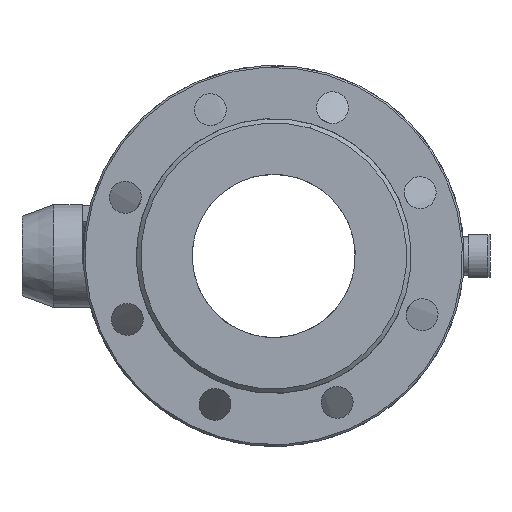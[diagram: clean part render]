
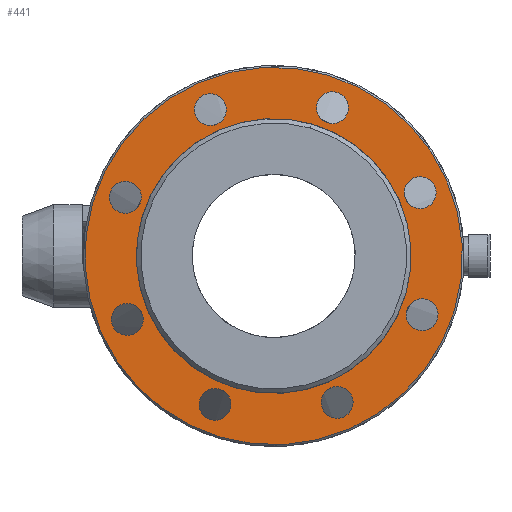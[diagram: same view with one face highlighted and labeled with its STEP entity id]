
A CAD part, left-side view. The second image highlights one B-rep face of the part: STEP entity #441.
In plain terms, the highlighted planar face has unit normal (-1, 0, 0).
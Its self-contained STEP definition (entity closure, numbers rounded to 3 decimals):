
#441=ADVANCED_FACE('',(#2060,#2062,#2064,#2066,#2068,#2070,#2072,#2074,#2076,#2078),
#2080,.T.);
#2060=FACE_BOUND('',#2061,.T.);
#2061=EDGE_LOOP('',(#3440,#3441));
#2062=FACE_BOUND('',#2063,.T.);
#2063=EDGE_LOOP('',(#3442,#3443));
#2064=FACE_BOUND('',#2065,.T.);
#2065=EDGE_LOOP('',(#3444,#3445));
#2066=FACE_BOUND('',#2067,.T.);
#2067=EDGE_LOOP('',(#3446,#3447));
#2068=FACE_BOUND('',#2069,.T.);
#2069=EDGE_LOOP('',(#3448,#3449));
#2070=FACE_BOUND('',#2071,.T.);
#2071=EDGE_LOOP('',(#3450,#3451));
#2072=FACE_BOUND('',#2073,.T.);
#2073=EDGE_LOOP('',(#3452,#3453));
#2074=FACE_BOUND('',#2075,.T.);
#2075=EDGE_LOOP('',(#3454,#3455));
#2076=FACE_BOUND('',#2077,.T.);
#2077=EDGE_LOOP('',(#3456,#3457));
#2078=FACE_OUTER_BOUND('',#2079,.T.);
#2079=EDGE_LOOP('',(#3458,#3459));
#2080=PLANE('',#2081);
#2081=AXIS2_PLACEMENT_3D('',#2082,#2083,#2084);
#2082=CARTESIAN_POINT('',(-105.548,91.07,-41.585));
#2083=DIRECTION('',(-1.,0.,0.));
#2084=DIRECTION('',(0.,0.397,0.918));
#3440=ORIENTED_EDGE('',*,*,#4205,.F.);
#3441=ORIENTED_EDGE('',*,*,#4199,.F.);
#3442=ORIENTED_EDGE('',*,*,#4206,.F.);
#3443=ORIENTED_EDGE('',*,*,#4195,.F.);
#3444=ORIENTED_EDGE('',*,*,#4207,.T.);
#3445=ORIENTED_EDGE('',*,*,#4189,.T.);
#3446=ORIENTED_EDGE('',*,*,#4208,.T.);
#3447=ORIENTED_EDGE('',*,*,#4185,.T.);
#3448=ORIENTED_EDGE('',*,*,#4209,.T.);
#3449=ORIENTED_EDGE('',*,*,#4181,.T.);
#3450=ORIENTED_EDGE('',*,*,#4210,.T.);
#3451=ORIENTED_EDGE('',*,*,#4177,.T.);
#3452=ORIENTED_EDGE('',*,*,#4211,.T.);
#3453=ORIENTED_EDGE('',*,*,#4173,.T.);
#3454=ORIENTED_EDGE('',*,*,#4212,.T.);
#3455=ORIENTED_EDGE('',*,*,#4169,.T.);
#3456=ORIENTED_EDGE('',*,*,#4213,.T.);
#3457=ORIENTED_EDGE('',*,*,#4165,.T.);
#3458=ORIENTED_EDGE('',*,*,#4214,.T.);
#3459=ORIENTED_EDGE('',*,*,#4157,.T.);
#4157=EDGE_CURVE('',#5044,#5045,#5046,.T.);
#4165=EDGE_CURVE('',#5060,#5061,#5062,.T.);
#4169=EDGE_CURVE('',#5068,#5069,#5070,.T.);
#4173=EDGE_CURVE('',#5076,#5077,#5078,.T.);
#4177=EDGE_CURVE('',#5084,#5085,#5086,.T.);
#4181=EDGE_CURVE('',#5092,#5093,#5094,.T.);
#4185=EDGE_CURVE('',#5100,#5101,#5102,.T.);
#4189=EDGE_CURVE('',#5108,#5109,#5110,.T.);
#4195=EDGE_CURVE('',#5119,#5121,#5122,.T.);
#4199=EDGE_CURVE('',#5127,#5129,#5130,.T.);
#4205=EDGE_CURVE('',#5129,#5127,#5136,.T.);
#4206=EDGE_CURVE('',#5121,#5119,#5137,.T.);
#4207=EDGE_CURVE('',#5109,#5108,#5138,.T.);
#4208=EDGE_CURVE('',#5101,#5100,#5139,.T.);
#4209=EDGE_CURVE('',#5093,#5092,#5140,.T.);
#4210=EDGE_CURVE('',#5085,#5084,#5141,.T.);
#4211=EDGE_CURVE('',#5077,#5076,#5142,.T.);
#4212=EDGE_CURVE('',#5069,#5068,#5143,.T.);
#4213=EDGE_CURVE('',#5061,#5060,#5144,.T.);
#4214=EDGE_CURVE('',#5045,#5044,#5145,.T.);
#5044=VERTEX_POINT('',#8753);
#5045=VERTEX_POINT('',#8754);
#5046=CIRCLE('',#8755,106.5);
#5060=VERTEX_POINT('',#8789);
#5061=VERTEX_POINT('',#8790);
#5062=CIRCLE('',#8791,9.);
#5068=VERTEX_POINT('',#8807);
#5069=VERTEX_POINT('',#8808);
#5070=CIRCLE('',#8809,9.);
#5076=VERTEX_POINT('',#8825);
#5077=VERTEX_POINT('',#8826);
#5078=CIRCLE('',#8827,9.);
#5084=VERTEX_POINT('',#8843);
#5085=VERTEX_POINT('',#8844);
#5086=CIRCLE('',#8845,9.);
#5092=VERTEX_POINT('',#8861);
#5093=VERTEX_POINT('',#8862);
#5094=CIRCLE('',#8863,9.);
#5100=VERTEX_POINT('',#8879);
#5101=VERTEX_POINT('',#8880);
#5102=CIRCLE('',#8881,9.);
#5108=VERTEX_POINT('',#8897);
#5109=VERTEX_POINT('',#8898);
#5110=CIRCLE('',#8899,9.);
#5119=VERTEX_POINT('',#8921);
#5121=VERTEX_POINT('',#8925);
#5122=CIRCLE('',#8926,77.5);
#5127=VERTEX_POINT('',#8939);
#5129=VERTEX_POINT('',#8943);
#5130=CIRCLE('',#8944,9.);
#5136=CIRCLE('',#8965,9.);
#5137=CIRCLE('',#8969,77.5);
#5138=CIRCLE('',#8973,9.);
#5139=CIRCLE('',#8977,9.);
#5140=CIRCLE('',#8981,9.);
#5141=CIRCLE('',#8985,9.);
#5142=CIRCLE('',#8989,9.);
#5143=CIRCLE('',#8993,9.);
#5144=CIRCLE('',#8997,9.);
#5145=CIRCLE('',#9001,106.5);
#8753=CARTESIAN_POINT('',(-105.548,34.734,98.86));
#8754=CARTESIAN_POINT('',(-105.548,-49.896,-96.605));
#8755=AXIS2_PLACEMENT_3D('',#8756,#8757,#8758);
#8756=CARTESIAN_POINT('',(-105.548,-7.581,1.127));
#8757=DIRECTION('',(-1.,0.,0.));
#8758=DIRECTION('',(0.,0.397,0.918));
#8789=CARTESIAN_POINT('',(-105.548,-39.764,-73.205));
#8790=CARTESIAN_POINT('',(-105.548,-46.916,-89.723));
#8791=AXIS2_PLACEMENT_3D('',#8792,#8793,#8794);
#8792=CARTESIAN_POINT('',(-105.548,-43.34,-81.464));
#8793=DIRECTION('',(1.,0.,0.));
#8794=DIRECTION('',(0.,0.397,0.918));
#8807=CARTESIAN_POINT('',(-105.548,29.11,-74.3));
#8808=CARTESIAN_POINT('',(-105.548,21.958,-90.818));
#8809=AXIS2_PLACEMENT_3D('',#8810,#8811,#8812);
#8810=CARTESIAN_POINT('',(-105.548,25.534,-82.559));
#8811=DIRECTION('',(1.,0.,0.));
#8812=DIRECTION('',(0.,0.397,0.918));
#8825=CARTESIAN_POINT('',(-105.548,78.586,-26.373));
#8826=CARTESIAN_POINT('',(-105.548,71.434,-42.891));
#8827=AXIS2_PLACEMENT_3D('',#8828,#8829,#8830);
#8828=CARTESIAN_POINT('',(-105.548,75.01,-34.632));
#8829=DIRECTION('',(1.,0.,0.));
#8830=DIRECTION('',(0.,0.397,0.918));
#8843=CARTESIAN_POINT('',(-105.548,79.681,42.502));
#8844=CARTESIAN_POINT('',(-105.548,72.53,25.983));
#8845=AXIS2_PLACEMENT_3D('',#8846,#8847,#8848);
#8846=CARTESIAN_POINT('',(-105.548,76.105,34.242));
#8847=DIRECTION('',(1.,0.,0.));
#8848=DIRECTION('',(0.,0.397,0.918));
#8861=CARTESIAN_POINT('',(-105.548,31.754,91.978));
#8862=CARTESIAN_POINT('',(-105.548,24.602,75.459));
#8863=AXIS2_PLACEMENT_3D('',#8864,#8865,#8866);
#8864=CARTESIAN_POINT('',(-105.548,28.178,83.718));
#8865=DIRECTION('',(1.,0.,0.));
#8866=DIRECTION('',(0.,0.397,0.918));
#8879=CARTESIAN_POINT('',(-105.548,-37.12,93.073));
#8880=CARTESIAN_POINT('',(-105.548,-44.272,76.555));
#8881=AXIS2_PLACEMENT_3D('',#8882,#8883,#8884);
#8882=CARTESIAN_POINT('',(-105.548,-40.696,84.814));
#8883=DIRECTION('',(1.,0.,0.));
#8884=DIRECTION('',(0.,0.397,0.918));
#8897=CARTESIAN_POINT('',(-105.548,-86.596,45.146));
#8898=CARTESIAN_POINT('',(-105.548,-93.748,28.628));
#8899=AXIS2_PLACEMENT_3D('',#8900,#8901,#8902);
#8900=CARTESIAN_POINT('',(-105.548,-90.172,36.887));
#8901=DIRECTION('',(1.,0.,0.));
#8902=DIRECTION('',(0.,0.397,0.918));
#8921=CARTESIAN_POINT('',(-105.548,-38.374,-69.993));
#8925=CARTESIAN_POINT('',(-105.548,23.212,72.247));
#8926=AXIS2_PLACEMENT_3D('',#8927,#8928,#8929);
#8927=CARTESIAN_POINT('',(-105.548,-7.581,1.127));
#8928=DIRECTION('',(-1.,0.,0.));
#8929=DIRECTION('',(0.,-0.397,-0.918));
#8939=CARTESIAN_POINT('',(-105.548,-94.843,-40.247));
#8943=CARTESIAN_POINT('',(-105.548,-87.691,-23.729));
#8944=AXIS2_PLACEMENT_3D('',#8945,#8946,#8947);
#8945=CARTESIAN_POINT('',(-105.548,-91.267,-31.988));
#8946=DIRECTION('',(-1.,0.,0.));
#8947=DIRECTION('',(0.,-0.397,-0.918));
#8965=AXIS2_PLACEMENT_3D('',#8966,#8967,#8968);
#8966=CARTESIAN_POINT('',(-105.548,-91.267,-31.988));
#8967=DIRECTION('',(-1.,0.,0.));
#8968=DIRECTION('',(0.,0.397,0.918));
#8969=AXIS2_PLACEMENT_3D('',#8970,#8971,#8972);
#8970=CARTESIAN_POINT('',(-105.548,-7.581,1.127));
#8971=DIRECTION('',(-1.,0.,0.));
#8972=DIRECTION('',(0.,0.397,0.918));
#8973=AXIS2_PLACEMENT_3D('',#8974,#8975,#8976);
#8974=CARTESIAN_POINT('',(-105.548,-90.172,36.887));
#8975=DIRECTION('',(1.,0.,0.));
#8976=DIRECTION('',(0.,-0.397,-0.918));
#8977=AXIS2_PLACEMENT_3D('',#8978,#8979,#8980);
#8978=CARTESIAN_POINT('',(-105.548,-40.696,84.814));
#8979=DIRECTION('',(1.,0.,0.));
#8980=DIRECTION('',(0.,-0.397,-0.918));
#8981=AXIS2_PLACEMENT_3D('',#8982,#8983,#8984);
#8982=CARTESIAN_POINT('',(-105.548,28.178,83.718));
#8983=DIRECTION('',(1.,0.,0.));
#8984=DIRECTION('',(0.,-0.397,-0.918));
#8985=AXIS2_PLACEMENT_3D('',#8986,#8987,#8988);
#8986=CARTESIAN_POINT('',(-105.548,76.105,34.242));
#8987=DIRECTION('',(1.,0.,0.));
#8988=DIRECTION('',(0.,-0.397,-0.918));
#8989=AXIS2_PLACEMENT_3D('',#8990,#8991,#8992);
#8990=CARTESIAN_POINT('',(-105.548,75.01,-34.632));
#8991=DIRECTION('',(1.,0.,0.));
#8992=DIRECTION('',(0.,-0.397,-0.918));
#8993=AXIS2_PLACEMENT_3D('',#8994,#8995,#8996);
#8994=CARTESIAN_POINT('',(-105.548,25.534,-82.559));
#8995=DIRECTION('',(1.,0.,0.));
#8996=DIRECTION('',(0.,-0.397,-0.918));
#8997=AXIS2_PLACEMENT_3D('',#8998,#8999,#9000);
#8998=CARTESIAN_POINT('',(-105.548,-43.34,-81.464));
#8999=DIRECTION('',(1.,0.,0.));
#9000=DIRECTION('',(0.,-0.397,-0.918));
#9001=AXIS2_PLACEMENT_3D('',#9002,#9003,#9004);
#9002=CARTESIAN_POINT('',(-105.548,-7.581,1.127));
#9003=DIRECTION('',(-1.,0.,0.));
#9004=DIRECTION('',(0.,-0.397,-0.918));
